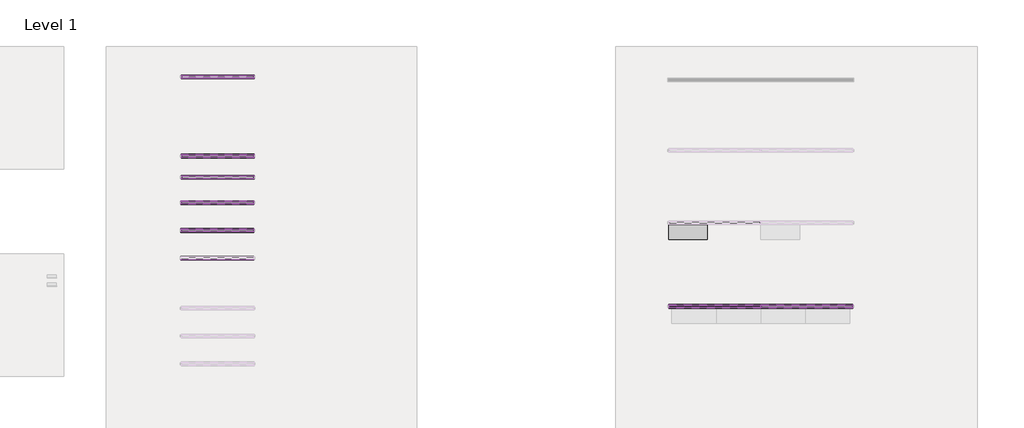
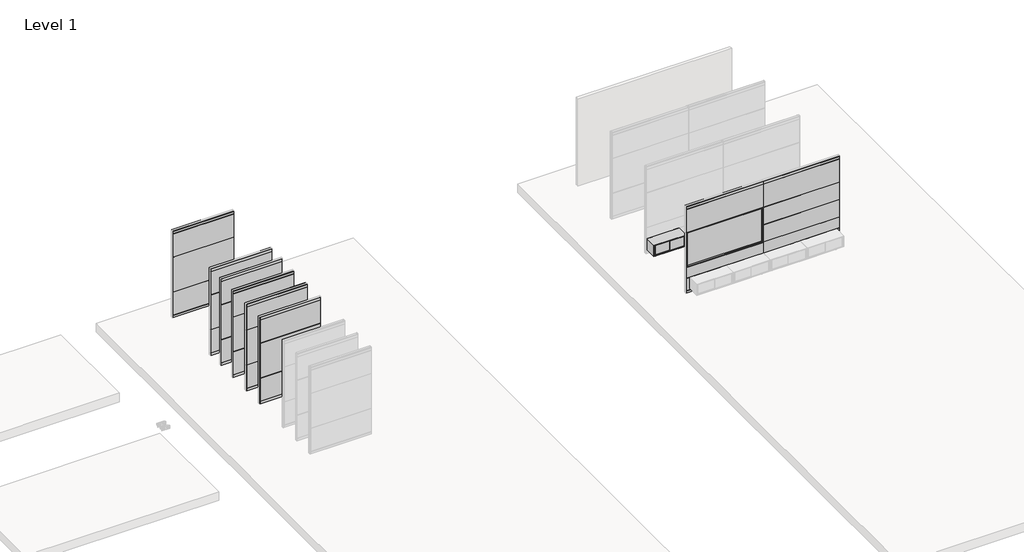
# One storey, part 12 of 13: 113 proxies, 1 furniture element.
"""IFC4 building model written with IfcOpenShell, lengths in millimetres."""

from ifc_helpers import new_model, si_unit, origin, place, context, project, spatial, transform, mapped, element, save
from components import fascia_teknion_ceiling_and_base_ffb1_18eda79c, fascia_teknion_ceiling_and_base_ffb1_afe21305, fascia_teknion_ceiling_and_base_ffb1_896a0c16, fascia_teknion_ceiling_and_base_ffb1_9837481b, frame_teknion_horizontal_rail_fkk_86cbbdfc, frame_teknion_horizontal_rail_fkk_8a89803d, glass_fascia_b5f6f7ce, level_i_45b542d7, level_i_5a75796b, level_i_b17bdb42, level_i_bottom_886b868d, level_i_top_2ca9f02e, level_ii_4f3a5f4c, level_ii_0c7391c9, level_ii_f53a0955, level_ii_bottom_6d1693ca, level_iii_1ffc0a55, level_iii_bffd5232, level_iii_4f8121dc, level_iii_edf6dfbd, furniture_d19da1b5

model = new_model("IFC4")

# Units and contexts
model_context = context("Model", 3, world=origin())
ifc_project = project(units=[si_unit("LENGTHUNIT", "METRE", prefix="MILLI")], contexts=[model_context])

# Site, building, storey
site = spatial("IfcSite", under=ifc_project)
building = spatial("IfcBuilding", under=site)
storey = spatial("IfcBuildingStorey", under=building, Name="Level 1", Elevation=0.0)

# Proxies
placement = place(None, origin())
fascia_teknion_ceiling_and_base_ffb1_shape = fascia_teknion_ceiling_and_base_ffb1_18eda79c(model_context)
element("IfcBuildingElementProxy", 1, Name="Fascia-Teknion-Ceiling_and_Base : FFB1", ObjectType="Fascia-Teknion-Ceiling_and_Base : FFB1", at=placement, inside=storey, context=model_context, shape_type="MappedRepresentation", body=[
    mapped(fascia_teknion_ceiling_and_base_ffb1_shape, transform((7469.8651083, 22312.7209257, 15.875), x_axis=(1.0, 0.0, 0.0), y_axis=(0.0, 1.0, 0.0), z_axis=(0.0, 0.0, 1.0))),
])
element("IfcBuildingElementProxy", 2, Name="Fascia-Teknion-Ceiling_and_Base : FFB1", ObjectType="Fascia-Teknion-Ceiling_and_Base : FFB1", at=placement, inside=storey, context=model_context, shape_type="MappedRepresentation", body=[
    mapped(fascia_teknion_ceiling_and_base_ffb1_shape, transform((7469.8447863, 20138.495915, 15.875), x_axis=(1.0, 0.0, 0.0), y_axis=(0.0, 1.0, 0.0), z_axis=(0.0, 0.0, 1.0))),
])
element("IfcBuildingElementProxy", 3, Name="Fascia-Teknion-Ceiling_and_Base : FFB1", ObjectType="Fascia-Teknion-Ceiling_and_Base : FFB1", at=placement, inside=storey, context=model_context, shape_type="MappedRepresentation", body=[
    mapped(fascia_teknion_ceiling_and_base_ffb1_shape, transform((7465.0427987, 18103.0839099, 15.875), x_axis=(1.0, 0.0, 0.0), y_axis=(0.0, 1.0, 0.0), z_axis=(0.0, 0.0, 1.0))),
])
element("IfcBuildingElementProxy", 4, Name="Fascia-Teknion-Ceiling_and_Base : FFB1", ObjectType="Fascia-Teknion-Ceiling_and_Base : FFB1", at=placement, inside=storey, context=model_context, shape_type="MappedRepresentation", body=[
    mapped(fascia_teknion_ceiling_and_base_ffb1_shape, transform((7465.0427987, 17341.0839099, 15.875), x_axis=(1.0, 0.0, 0.0), y_axis=(0.0, 1.0, 0.0), z_axis=(0.0, 0.0, 1.0))),
])
element("IfcBuildingElementProxy", 5, Name="Fascia-Teknion-Ceiling_and_Base : FFB1", ObjectType="Fascia-Teknion-Ceiling_and_Base : FFB1", at=placement, inside=storey, context=model_context, shape_type="MappedRepresentation", body=[
    mapped(fascia_teknion_ceiling_and_base_ffb1_shape, transform((7465.0427987, 18865.0839099, 15.875), x_axis=(1.0, 0.0, 0.0), y_axis=(0.0, 1.0, 0.0), z_axis=(0.0, 0.0, 1.0))),
])
element("IfcBuildingElementProxy", 6, Name="Fascia-Teknion-Ceiling_and_Base : FFB1", ObjectType="Fascia-Teknion-Ceiling_and_Base : FFB1", at=placement, inside=storey, context=model_context, shape_type="MappedRepresentation", body=[
    mapped(fascia_teknion_ceiling_and_base_ffb1_shape, transform((7469.8447863, 19558.2796573, 15.875), x_axis=(1.0, 0.0, 0.0), y_axis=(0.0, 1.0, 0.0), z_axis=(0.0, 0.0, 1.0))),
])
fascia_teknion_ceiling_and_base_ffb1_2_shape = fascia_teknion_ceiling_and_base_ffb1_afe21305(model_context)
element("IfcBuildingElementProxy", 7, Name="Fascia-Teknion-Ceiling_and_Base : FFB1", ObjectType="Fascia-Teknion-Ceiling_and_Base : FFB1", at=placement, inside=storey, context=model_context, shape_type="MappedRepresentation", body=[
    mapped(fascia_teknion_ceiling_and_base_ffb1_2_shape, transform((7469.8651083, 22374.6969257, 15.875), x_axis=(1.0, 0.0, 0.0), y_axis=(0.0, 1.0, 0.0), z_axis=(0.0, 0.0, 1.0))),
])
element("IfcBuildingElementProxy", 8, Name="Fascia-Teknion-Ceiling_and_Base : FFB1", ObjectType="Fascia-Teknion-Ceiling_and_Base : FFB1", at=placement, inside=storey, context=model_context, shape_type="MappedRepresentation", body=[
    mapped(fascia_teknion_ceiling_and_base_ffb1_2_shape, transform((7469.8447863, 20200.471915, 15.875), x_axis=(1.0, 0.0, 0.0), y_axis=(0.0, 1.0, 0.0), z_axis=(0.0, 0.0, 1.0))),
])
element("IfcBuildingElementProxy", 9, Name="Fascia-Teknion-Ceiling_and_Base : FFB1", ObjectType="Fascia-Teknion-Ceiling_and_Base : FFB1", at=placement, inside=storey, context=model_context, shape_type="MappedRepresentation", body=[
    mapped(fascia_teknion_ceiling_and_base_ffb1_2_shape, transform((7465.0427987, 18165.0599099, 15.875), x_axis=(1.0, 0.0, 0.0), y_axis=(0.0, 1.0, 0.0), z_axis=(0.0, 0.0, 1.0))),
])
element("IfcBuildingElementProxy", 10, Name="Fascia-Teknion-Ceiling_and_Base : FFB1", ObjectType="Fascia-Teknion-Ceiling_and_Base : FFB1", at=placement, inside=storey, context=model_context, shape_type="MappedRepresentation", body=[
    mapped(fascia_teknion_ceiling_and_base_ffb1_2_shape, transform((7465.0427987, 17403.0599099, 15.875), x_axis=(1.0, 0.0, 0.0), y_axis=(0.0, 1.0, 0.0), z_axis=(0.0, 0.0, 1.0))),
])
element("IfcBuildingElementProxy", 11, Name="Fascia-Teknion-Ceiling_and_Base : FFB1", ObjectType="Fascia-Teknion-Ceiling_and_Base : FFB1", at=placement, inside=storey, context=model_context, shape_type="MappedRepresentation", body=[
    mapped(fascia_teknion_ceiling_and_base_ffb1_2_shape, transform((7465.0427987, 18927.0599099, 15.875), x_axis=(1.0, 0.0, 0.0), y_axis=(0.0, 1.0, 0.0), z_axis=(0.0, 0.0, 1.0))),
])
element("IfcBuildingElementProxy", 12, Name="Fascia-Teknion-Ceiling_and_Base : FFB1", ObjectType="Fascia-Teknion-Ceiling_and_Base : FFB1", at=placement, inside=storey, context=model_context, shape_type="MappedRepresentation", body=[
    mapped(fascia_teknion_ceiling_and_base_ffb1_2_shape, transform((7469.8447863, 19620.2556573, 15.875), x_axis=(1.0, 0.0, 0.0), y_axis=(0.0, 1.0, 0.0), z_axis=(0.0, 0.0, 1.0))),
])
fascia_teknion_ceiling_and_base_ffb1_3_shape = fascia_teknion_ceiling_and_base_ffb1_896a0c16(model_context)
element("IfcBuildingElementProxy", 13, Name="Fascia-Teknion-Ceiling_and_Base : FFB1", ObjectType="Fascia-Teknion-Ceiling_and_Base : FFB1", at=placement, inside=storey, context=model_context, shape_type="MappedRepresentation", body=[
    mapped(fascia_teknion_ceiling_and_base_ffb1_3_shape, transform((21074.4289087, 16082.4946297, 15.875), x_axis=(1.0, 0.0, 0.0), y_axis=(0.0, 1.0, 0.0), z_axis=(0.0, 0.0, 1.0))),
])
element("IfcBuildingElementProxy", 14, Name="Fascia-Teknion-Ceiling_and_Base : FFB1", ObjectType="Fascia-Teknion-Ceiling_and_Base : FFB1", at=placement, inside=storey, context=model_context, shape_type="MappedRepresentation", body=[
    mapped(fascia_teknion_ceiling_and_base_ffb1_3_shape, transform((23600.439065, 16082.4946297, 15.875), x_axis=(1.0, 0.0, 0.0), y_axis=(0.0, 1.0, 0.0), z_axis=(0.0, 0.0, 1.0))),
])
fascia_teknion_ceiling_and_base_ffb1_4_shape = fascia_teknion_ceiling_and_base_ffb1_9837481b(model_context)
element("IfcBuildingElementProxy", 15, Name="Fascia-Teknion-Ceiling_and_Base : FFB1", ObjectType="Fascia-Teknion-Ceiling_and_Base : FFB1", at=placement, inside=storey, context=model_context, shape_type="MappedRepresentation", body=[
    mapped(fascia_teknion_ceiling_and_base_ffb1_4_shape, transform((21074.4289087, 16020.5186297, 15.875), x_axis=(1.0, 0.0, 0.0), y_axis=(0.0, 1.0, 0.0), z_axis=(0.0, 0.0, 1.0))),
])
element("IfcBuildingElementProxy", 16, Name="Fascia-Teknion-Ceiling_and_Base : FFB1", ObjectType="Fascia-Teknion-Ceiling_and_Base : FFB1", at=placement, inside=storey, context=model_context, shape_type="MappedRepresentation", body=[
    mapped(fascia_teknion_ceiling_and_base_ffb1_4_shape, transform((23600.439065, 16020.5186297, 15.875), x_axis=(1.0, 0.0, 0.0), y_axis=(0.0, 1.0, 0.0), z_axis=(0.0, 0.0, 1.0))),
])
element("IfcBuildingElementProxy", 17, Name="Fascia-Teknion-Ceiling_and_Base : FFC", ObjectType="Fascia-Teknion-Ceiling_and_Base : FFC", at=placement, inside=storey, context=model_context, shape_type="MappedRepresentation", body=[
    mapped(fascia_teknion_ceiling_and_base_ffb1_2_shape, transform((7469.8651083, 22374.6969257, 2950.845), x_axis=(1.0, 0.0, 0.0), y_axis=(0.0, 1.0, 0.0), z_axis=(0.0, 0.0, 1.0))),
])
element("IfcBuildingElementProxy", 18, Name="Fascia-Teknion-Ceiling_and_Base : FFC", ObjectType="Fascia-Teknion-Ceiling_and_Base : FFC", at=placement, inside=storey, context=model_context, shape_type="MappedRepresentation", body=[
    mapped(fascia_teknion_ceiling_and_base_ffb1_2_shape, transform((7469.8447863, 20200.471915, 2950.845), x_axis=(1.0, 0.0, 0.0), y_axis=(0.0, 1.0, 0.0), z_axis=(0.0, 0.0, 1.0))),
])
element("IfcBuildingElementProxy", 19, Name="Fascia-Teknion-Ceiling_and_Base : FFC", ObjectType="Fascia-Teknion-Ceiling_and_Base : FFC", at=placement, inside=storey, context=model_context, shape_type="MappedRepresentation", body=[
    mapped(fascia_teknion_ceiling_and_base_ffb1_2_shape, transform((7465.0427987, 18165.0599099, 2950.845), x_axis=(1.0, 0.0, 0.0), y_axis=(0.0, 1.0, 0.0), z_axis=(0.0, 0.0, 1.0))),
])
element("IfcBuildingElementProxy", 20, Name="Fascia-Teknion-Ceiling_and_Base : FFC", ObjectType="Fascia-Teknion-Ceiling_and_Base : FFC", at=placement, inside=storey, context=model_context, shape_type="MappedRepresentation", body=[
    mapped(fascia_teknion_ceiling_and_base_ffb1_2_shape, transform((7465.0427987, 18927.0599099, 2950.845), x_axis=(1.0, 0.0, 0.0), y_axis=(0.0, 1.0, 0.0), z_axis=(0.0, 0.0, 1.0))),
])
element("IfcBuildingElementProxy", 21, Name="Fascia-Teknion-Ceiling_and_Base : FFC", ObjectType="Fascia-Teknion-Ceiling_and_Base : FFC", at=placement, inside=storey, context=model_context, shape_type="MappedRepresentation", body=[
    mapped(fascia_teknion_ceiling_and_base_ffb1_2_shape, transform((7469.8447863, 19620.2556573, 2950.845), x_axis=(1.0, 0.0, 0.0), y_axis=(0.0, 1.0, 0.0), z_axis=(0.0, 0.0, 1.0))),
])
element("IfcBuildingElementProxy", 22, Name="Fascia-Teknion-Ceiling_and_Base : FFC", ObjectType="Fascia-Teknion-Ceiling_and_Base : FFC", at=placement, inside=storey, context=model_context, shape_type="MappedRepresentation", body=[
    mapped(fascia_teknion_ceiling_and_base_ffb1_shape, transform((7469.8651083, 22312.7209257, 2950.845), x_axis=(1.0, 0.0, 0.0), y_axis=(0.0, 1.0, 0.0), z_axis=(0.0, 0.0, 1.0))),
])
element("IfcBuildingElementProxy", 23, Name="Fascia-Teknion-Ceiling_and_Base : FFC", ObjectType="Fascia-Teknion-Ceiling_and_Base : FFC", at=placement, inside=storey, context=model_context, shape_type="MappedRepresentation", body=[
    mapped(fascia_teknion_ceiling_and_base_ffb1_shape, transform((7469.8447863, 20138.495915, 2950.845), x_axis=(1.0, 0.0, 0.0), y_axis=(0.0, 1.0, 0.0), z_axis=(0.0, 0.0, 1.0))),
])
element("IfcBuildingElementProxy", 24, Name="Fascia-Teknion-Ceiling_and_Base : FFC", ObjectType="Fascia-Teknion-Ceiling_and_Base : FFC", at=placement, inside=storey, context=model_context, shape_type="MappedRepresentation", body=[
    mapped(fascia_teknion_ceiling_and_base_ffb1_shape, transform((7465.0427987, 18103.0839099, 2950.845), x_axis=(1.0, 0.0, 0.0), y_axis=(0.0, 1.0, 0.0), z_axis=(0.0, 0.0, 1.0))),
])
element("IfcBuildingElementProxy", 25, Name="Fascia-Teknion-Ceiling_and_Base : FFC", ObjectType="Fascia-Teknion-Ceiling_and_Base : FFC", at=placement, inside=storey, context=model_context, shape_type="MappedRepresentation", body=[
    mapped(fascia_teknion_ceiling_and_base_ffb1_shape, transform((7465.0427987, 17341.0839099, 2950.845), x_axis=(1.0, 0.0, 0.0), y_axis=(0.0, 1.0, 0.0), z_axis=(0.0, 0.0, 1.0))),
])
element("IfcBuildingElementProxy", 26, Name="Fascia-Teknion-Ceiling_and_Base : FFC", ObjectType="Fascia-Teknion-Ceiling_and_Base : FFC", at=placement, inside=storey, context=model_context, shape_type="MappedRepresentation", body=[
    mapped(fascia_teknion_ceiling_and_base_ffb1_shape, transform((7465.0427987, 18865.0839099, 2950.845), x_axis=(1.0, 0.0, 0.0), y_axis=(0.0, 1.0, 0.0), z_axis=(0.0, 0.0, 1.0))),
])
element("IfcBuildingElementProxy", 27, Name="Fascia-Teknion-Ceiling_and_Base : FFC", ObjectType="Fascia-Teknion-Ceiling_and_Base : FFC", at=placement, inside=storey, context=model_context, shape_type="MappedRepresentation", body=[
    mapped(fascia_teknion_ceiling_and_base_ffb1_shape, transform((7469.8447863, 19558.2796573, 2950.845), x_axis=(1.0, 0.0, 0.0), y_axis=(0.0, 1.0, 0.0), z_axis=(0.0, 0.0, 1.0))),
])
element("IfcBuildingElementProxy", 28, Name="Fascia-Teknion-Ceiling_and_Base : FFC", ObjectType="Fascia-Teknion-Ceiling_and_Base : FFC", at=placement, inside=storey, context=model_context, shape_type="MappedRepresentation", body=[
    mapped(fascia_teknion_ceiling_and_base_ffb1_3_shape, transform((21074.4289087, 16082.4946297, 2950.845), x_axis=(1.0, 0.0, 0.0), y_axis=(0.0, 1.0, 0.0), z_axis=(0.0, 0.0, 1.0))),
])
element("IfcBuildingElementProxy", 29, Name="Fascia-Teknion-Ceiling_and_Base : FFC", ObjectType="Fascia-Teknion-Ceiling_and_Base : FFC", at=placement, inside=storey, context=model_context, shape_type="MappedRepresentation", body=[
    mapped(fascia_teknion_ceiling_and_base_ffb1_3_shape, transform((23600.439065, 16082.4946297, 2950.845), x_axis=(1.0, 0.0, 0.0), y_axis=(0.0, 1.0, 0.0), z_axis=(0.0, 0.0, 1.0))),
])
element("IfcBuildingElementProxy", 30, Name="Fascia-Teknion-Ceiling_and_Base : FFC", ObjectType="Fascia-Teknion-Ceiling_and_Base : FFC", at=placement, inside=storey, context=model_context, shape_type="MappedRepresentation", body=[
    mapped(fascia_teknion_ceiling_and_base_ffb1_4_shape, transform((21074.4289087, 16020.5186297, 2950.845), x_axis=(1.0, 0.0, 0.0), y_axis=(0.0, 1.0, 0.0), z_axis=(0.0, 0.0, 1.0))),
])
element("IfcBuildingElementProxy", 31, Name="Fascia-Teknion-Ceiling_and_Base : FFC", ObjectType="Fascia-Teknion-Ceiling_and_Base : FFC", at=placement, inside=storey, context=model_context, shape_type="MappedRepresentation", body=[
    mapped(fascia_teknion_ceiling_and_base_ffb1_4_shape, transform((23600.439065, 16020.5186297, 2950.845), x_axis=(1.0, 0.0, 0.0), y_axis=(0.0, 1.0, 0.0), z_axis=(0.0, 0.0, 1.0))),
])
frame_teknion_horizontal_rail_fkk_shape = frame_teknion_horizontal_rail_fkk_86cbbdfc(model_context)
element("IfcBuildingElementProxy", 32, Name="Frame-Teknion-Horizontal_Rail : FKK", ObjectType="Frame-Teknion-Horizontal_Rail : FKK", at=placement, inside=storey, context=model_context, shape_type="MappedRepresentation", body=[
    mapped(frame_teknion_horizontal_rail_fkk_shape, transform((7469.8651083, 22343.7089257, 100.4514438), x_axis=(1.0, 0.0, 0.0), y_axis=(0.0, 1.0, 0.0), z_axis=(0.0, 0.0, 1.0))),
])
element("IfcBuildingElementProxy", 33, Name="Frame-Teknion-Horizontal_Rail : FKK", ObjectType="Frame-Teknion-Horizontal_Rail : FKK", at=placement, inside=storey, context=model_context, shape_type="MappedRepresentation", body=[
    mapped(frame_teknion_horizontal_rail_fkk_shape, transform((7469.8651083, 22343.7089257, 2947.5374437), x_axis=(1.0, 0.0, 0.0), y_axis=(0.0, 1.0, 0.0), z_axis=(0.0, 0.0, 1.0))),
])
element("IfcBuildingElementProxy", 34, Name="Frame-Teknion-Horizontal_Rail : FKK", ObjectType="Frame-Teknion-Horizontal_Rail : FKK", at=placement, inside=storey, context=model_context, shape_type="MappedRepresentation", body=[
    mapped(frame_teknion_horizontal_rail_fkk_shape, transform((7469.8447863, 20169.483915, 100.4514438), x_axis=(1.0, 0.0, 0.0), y_axis=(0.0, 1.0, 0.0), z_axis=(0.0, 0.0, 1.0))),
])
element("IfcBuildingElementProxy", 35, Name="Frame-Teknion-Horizontal_Rail : FKK", ObjectType="Frame-Teknion-Horizontal_Rail : FKK", at=placement, inside=storey, context=model_context, shape_type="MappedRepresentation", body=[
    mapped(frame_teknion_horizontal_rail_fkk_shape, transform((7469.8447863, 20169.483915, 2947.5374437), x_axis=(1.0, 0.0, 0.0), y_axis=(0.0, 1.0, 0.0), z_axis=(0.0, 0.0, 1.0))),
])
element("IfcBuildingElementProxy", 36, Name="Frame-Teknion-Horizontal_Rail : FKK", ObjectType="Frame-Teknion-Horizontal_Rail : FKK", at=placement, inside=storey, context=model_context, shape_type="MappedRepresentation", body=[
    mapped(frame_teknion_horizontal_rail_fkk_shape, transform((7465.0427987, 18134.0719099, 100.4514438), x_axis=(1.0, 0.0, 0.0), y_axis=(0.0, 1.0, 0.0), z_axis=(0.0, 0.0, 1.0))),
])
element("IfcBuildingElementProxy", 37, Name="Frame-Teknion-Horizontal_Rail : FKK", ObjectType="Frame-Teknion-Horizontal_Rail : FKK", at=placement, inside=storey, context=model_context, shape_type="MappedRepresentation", body=[
    mapped(frame_teknion_horizontal_rail_fkk_shape, transform((7465.0427987, 18134.0719099, 2947.5374437), x_axis=(1.0, 0.0, 0.0), y_axis=(0.0, 1.0, 0.0), z_axis=(0.0, 0.0, 1.0))),
])
element("IfcBuildingElementProxy", 38, Name="Frame-Teknion-Horizontal_Rail : FKK", ObjectType="Frame-Teknion-Horizontal_Rail : FKK", at=placement, inside=storey, context=model_context, shape_type="MappedRepresentation", body=[
    mapped(frame_teknion_horizontal_rail_fkk_shape, transform((7465.0427987, 18896.0719099, 100.4514438), x_axis=(1.0, 0.0, 0.0), y_axis=(0.0, 1.0, 0.0), z_axis=(0.0, 0.0, 1.0))),
])
element("IfcBuildingElementProxy", 39, Name="Frame-Teknion-Horizontal_Rail : FKK", ObjectType="Frame-Teknion-Horizontal_Rail : FKK", at=placement, inside=storey, context=model_context, shape_type="MappedRepresentation", body=[
    mapped(frame_teknion_horizontal_rail_fkk_shape, transform((7465.0427987, 18896.0719099, 2947.5374437), x_axis=(1.0, 0.0, 0.0), y_axis=(0.0, 1.0, 0.0), z_axis=(0.0, 0.0, 1.0))),
])
element("IfcBuildingElementProxy", 40, Name="Frame-Teknion-Horizontal_Rail : FKK", ObjectType="Frame-Teknion-Horizontal_Rail : FKK", at=placement, inside=storey, context=model_context, shape_type="MappedRepresentation", body=[
    mapped(frame_teknion_horizontal_rail_fkk_shape, transform((7469.8447863, 19589.2676573, 100.4514438), x_axis=(1.0, 0.0, 0.0), y_axis=(0.0, 1.0, 0.0), z_axis=(0.0, 0.0, 1.0))),
])
element("IfcBuildingElementProxy", 41, Name="Frame-Teknion-Horizontal_Rail : FKK", ObjectType="Frame-Teknion-Horizontal_Rail : FKK", at=placement, inside=storey, context=model_context, shape_type="MappedRepresentation", body=[
    mapped(frame_teknion_horizontal_rail_fkk_shape, transform((7469.8447863, 19589.2676573, 2947.5374437), x_axis=(1.0, 0.0, 0.0), y_axis=(0.0, 1.0, 0.0), z_axis=(0.0, 0.0, 1.0))),
])
frame_teknion_horizontal_rail_fkk_2_shape = frame_teknion_horizontal_rail_fkk_8a89803d(model_context)
element("IfcBuildingElementProxy", 42, Name="Frame-Teknion-Horizontal_Rail : FKK", ObjectType="Frame-Teknion-Horizontal_Rail : FKK", at=placement, inside=storey, context=model_context, shape_type="MappedRepresentation", body=[
    mapped(frame_teknion_horizontal_rail_fkk_2_shape, transform((21074.4289087, 16051.5066297, 100.4514438), x_axis=(1.0, 0.0, 0.0), y_axis=(0.0, 1.0, 0.0), z_axis=(0.0, 0.0, 1.0))),
])
element("IfcBuildingElementProxy", 43, Name="Frame-Teknion-Horizontal_Rail : FKK", ObjectType="Frame-Teknion-Horizontal_Rail : FKK", at=placement, inside=storey, context=model_context, shape_type="MappedRepresentation", body=[
    mapped(frame_teknion_horizontal_rail_fkk_2_shape, transform((21074.4289087, 16051.5066297, 2947.5374437), x_axis=(1.0, 0.0, 0.0), y_axis=(0.0, 1.0, 0.0), z_axis=(0.0, 0.0, 1.0))),
])
element("IfcBuildingElementProxy", 44, Name="Frame-Teknion-Horizontal_Rail : FKK", ObjectType="Frame-Teknion-Horizontal_Rail : FKK", at=placement, inside=storey, context=model_context, shape_type="MappedRepresentation", body=[
    mapped(frame_teknion_horizontal_rail_fkk_2_shape, transform((23600.439065, 16051.5066297, 100.4514438), x_axis=(1.0, 0.0, 0.0), y_axis=(0.0, 1.0, 0.0), z_axis=(0.0, 0.0, 1.0))),
])
element("IfcBuildingElementProxy", 45, Name="Frame-Teknion-Horizontal_Rail : FKK", ObjectType="Frame-Teknion-Horizontal_Rail : FKK", at=placement, inside=storey, context=model_context, shape_type="MappedRepresentation", body=[
    mapped(frame_teknion_horizontal_rail_fkk_2_shape, transform((23600.439065, 16051.5066297, 2947.5374437), x_axis=(1.0, 0.0, 0.0), y_axis=(0.0, 1.0, 0.0), z_axis=(0.0, 0.0, 1.0))),
])
element("IfcBuildingElementProxy", 46, Name="Frame-Teknion-Landscape_Horizontal_Rail : FLKH", ObjectType="Frame-Teknion-Landscape_Horizontal_Rail : FLKH", at=placement, inside=storey, context=model_context, shape_type="MappedRepresentation", body=[
    mapped(frame_teknion_horizontal_rail_fkk_shape, transform((7469.8651083, 22343.7089257, 917.575), x_axis=(1.0, 0.0, 0.0), y_axis=(0.0, 1.0, 0.0), z_axis=(0.0, 0.0, 1.0))),
])
element("IfcBuildingElementProxy", 47, Name="Frame-Teknion-Landscape_Horizontal_Rail : FLKH", ObjectType="Frame-Teknion-Landscape_Horizontal_Rail : FLKH", at=placement, inside=storey, context=model_context, shape_type="MappedRepresentation", body=[
    mapped(frame_teknion_horizontal_rail_fkk_shape, transform((7469.8651083, 22343.7089257, 2136.775), x_axis=(1.0, 0.0, 0.0), y_axis=(0.0, 1.0, 0.0), z_axis=(0.0, 0.0, 1.0))),
])
element("IfcBuildingElementProxy", 48, Name="Frame-Teknion-Landscape_Horizontal_Rail : FLKH", ObjectType="Frame-Teknion-Landscape_Horizontal_Rail : FLKH", at=placement, inside=storey, context=model_context, shape_type="MappedRepresentation", body=[
    mapped(frame_teknion_horizontal_rail_fkk_shape, transform((7469.8447863, 20169.483915, 917.575), x_axis=(1.0, 0.0, 0.0), y_axis=(0.0, 1.0, 0.0), z_axis=(0.0, 0.0, 1.0))),
])
element("IfcBuildingElementProxy", 49, Name="Frame-Teknion-Landscape_Horizontal_Rail : FLKH", ObjectType="Frame-Teknion-Landscape_Horizontal_Rail : FLKH", at=placement, inside=storey, context=model_context, shape_type="MappedRepresentation", body=[
    mapped(frame_teknion_horizontal_rail_fkk_shape, transform((7469.8447863, 20169.483915, 2136.775), x_axis=(1.0, 0.0, 0.0), y_axis=(0.0, 1.0, 0.0), z_axis=(0.0, 0.0, 1.0))),
])
element("IfcBuildingElementProxy", 50, Name="Frame-Teknion-Landscape_Horizontal_Rail : FLKH", ObjectType="Frame-Teknion-Landscape_Horizontal_Rail : FLKH", at=placement, inside=storey, context=model_context, shape_type="MappedRepresentation", body=[
    mapped(frame_teknion_horizontal_rail_fkk_shape, transform((7465.0427987, 18134.0719099, 917.575), x_axis=(1.0, 0.0, 0.0), y_axis=(0.0, 1.0, 0.0), z_axis=(0.0, 0.0, 1.0))),
])
element("IfcBuildingElementProxy", 51, Name="Frame-Teknion-Landscape_Horizontal_Rail : FLKH", ObjectType="Frame-Teknion-Landscape_Horizontal_Rail : FLKH", at=placement, inside=storey, context=model_context, shape_type="MappedRepresentation", body=[
    mapped(frame_teknion_horizontal_rail_fkk_shape, transform((7465.0427987, 18134.0719099, 2136.775), x_axis=(1.0, 0.0, 0.0), y_axis=(0.0, 1.0, 0.0), z_axis=(0.0, 0.0, 1.0))),
])
element("IfcBuildingElementProxy", 52, Name="Frame-Teknion-Landscape_Horizontal_Rail : FLKH", ObjectType="Frame-Teknion-Landscape_Horizontal_Rail : FLKH", at=placement, inside=storey, context=model_context, shape_type="MappedRepresentation", body=[
    mapped(frame_teknion_horizontal_rail_fkk_shape, transform((7465.0427987, 18896.0719099, 917.575), x_axis=(1.0, 0.0, 0.0), y_axis=(0.0, 1.0, 0.0), z_axis=(0.0, 0.0, 1.0))),
])
element("IfcBuildingElementProxy", 53, Name="Frame-Teknion-Landscape_Horizontal_Rail : FLKH", ObjectType="Frame-Teknion-Landscape_Horizontal_Rail : FLKH", at=placement, inside=storey, context=model_context, shape_type="MappedRepresentation", body=[
    mapped(frame_teknion_horizontal_rail_fkk_shape, transform((7465.0427987, 18896.0719099, 2136.775), x_axis=(1.0, 0.0, 0.0), y_axis=(0.0, 1.0, 0.0), z_axis=(0.0, 0.0, 1.0))),
])
element("IfcBuildingElementProxy", 54, Name="Frame-Teknion-Landscape_Horizontal_Rail : FLKH", ObjectType="Frame-Teknion-Landscape_Horizontal_Rail : FLKH", at=placement, inside=storey, context=model_context, shape_type="MappedRepresentation", body=[
    mapped(frame_teknion_horizontal_rail_fkk_shape, transform((7469.8447863, 19589.2676573, 917.575), x_axis=(1.0, 0.0, 0.0), y_axis=(0.0, 1.0, 0.0), z_axis=(0.0, 0.0, 1.0))),
])
element("IfcBuildingElementProxy", 55, Name="Frame-Teknion-Landscape_Horizontal_Rail : FLKH", ObjectType="Frame-Teknion-Landscape_Horizontal_Rail : FLKH", at=placement, inside=storey, context=model_context, shape_type="MappedRepresentation", body=[
    mapped(frame_teknion_horizontal_rail_fkk_shape, transform((7469.8447863, 19589.2676573, 2136.775), x_axis=(1.0, 0.0, 0.0), y_axis=(0.0, 1.0, 0.0), z_axis=(0.0, 0.0, 1.0))),
])
element("IfcBuildingElementProxy", 56, Name="Frame-Teknion-Landscape_Horizontal_Rail : FLKH", ObjectType="Frame-Teknion-Landscape_Horizontal_Rail : FLKH", at=placement, inside=storey, context=model_context, shape_type="MappedRepresentation", body=[
    mapped(frame_teknion_horizontal_rail_fkk_2_shape, transform((21074.4289087, 18345.3189536, 917.575), x_axis=(1.0, 0.0, 0.0), y_axis=(0.0, 1.0, 0.0), z_axis=(0.0, 0.0, 1.0))),
])
element("IfcBuildingElementProxy", 57, Name="Frame-Teknion-Landscape_Horizontal_Rail : FLKH", ObjectType="Frame-Teknion-Landscape_Horizontal_Rail : FLKH", at=placement, inside=storey, context=model_context, shape_type="MappedRepresentation", body=[
    mapped(frame_teknion_horizontal_rail_fkk_2_shape, transform((21074.4289087, 18345.3189536, 2136.775), x_axis=(1.0, 0.0, 0.0), y_axis=(0.0, 1.0, 0.0), z_axis=(0.0, 0.0, 1.0))),
])
element("IfcBuildingElementProxy", 58, Name="Frame-Teknion-Landscape_Horizontal_Rail : FLKH", ObjectType="Frame-Teknion-Landscape_Horizontal_Rail : FLKH", at=placement, inside=storey, context=model_context, shape_type="MappedRepresentation", body=[
    mapped(frame_teknion_horizontal_rail_fkk_2_shape, transform((21074.4289087, 16051.5066297, 917.575), x_axis=(1.0, 0.0, 0.0), y_axis=(0.0, 1.0, 0.0), z_axis=(0.0, 0.0, 1.0))),
])
element("IfcBuildingElementProxy", 59, Name="Frame-Teknion-Landscape_Horizontal_Rail : FLKH", ObjectType="Frame-Teknion-Landscape_Horizontal_Rail : FLKH", at=placement, inside=storey, context=model_context, shape_type="MappedRepresentation", body=[
    mapped(frame_teknion_horizontal_rail_fkk_2_shape, transform((21074.4289087, 16051.5066297, 2136.775), x_axis=(1.0, 0.0, 0.0), y_axis=(0.0, 1.0, 0.0), z_axis=(0.0, 0.0, 1.0))),
])
element("IfcBuildingElementProxy", 60, Name="Frame-Teknion-Landscape_Horizontal_Rail : FLKH", ObjectType="Frame-Teknion-Landscape_Horizontal_Rail : FLKH", at=placement, inside=storey, context=model_context, shape_type="MappedRepresentation", body=[
    mapped(frame_teknion_horizontal_rail_fkk_2_shape, transform((23600.439065, 16051.5066297, 917.575), x_axis=(1.0, 0.0, 0.0), y_axis=(0.0, 1.0, 0.0), z_axis=(0.0, 0.0, 1.0))),
])
element("IfcBuildingElementProxy", 61, Name="Frame-Teknion-Landscape_Horizontal_Rail : FLKH", ObjectType="Frame-Teknion-Landscape_Horizontal_Rail : FLKH", at=placement, inside=storey, context=model_context, shape_type="MappedRepresentation", body=[
    mapped(frame_teknion_horizontal_rail_fkk_2_shape, transform((23600.439065, 16051.5066297, 2136.775), x_axis=(1.0, 0.0, 0.0), y_axis=(0.0, 1.0, 0.0), z_axis=(0.0, 0.0, 1.0))),
])
element("IfcBuildingElementProxy", 62, Name="Frame-Teknion-Landscape_Horizontal_Rail : FLKH", ObjectType="Frame-Teknion-Landscape_Horizontal_Rail : FLKH", at=placement, inside=storey, context=model_context, shape_type="MappedRepresentation", body=[
    mapped(frame_teknion_horizontal_rail_fkk_2_shape, transform((21074.4289087, 16051.5066297, 536.575), x_axis=(1.0, 0.0, 0.0), y_axis=(0.0, 1.0, 0.0), z_axis=(0.0, 0.0, 1.0))),
])
element("IfcBuildingElementProxy", 63, Name="Frame-Teknion-Landscape_Horizontal_Rail : FLKH", ObjectType="Frame-Teknion-Landscape_Horizontal_Rail : FLKH", at=placement, inside=storey, context=model_context, shape_type="MappedRepresentation", body=[
    mapped(frame_teknion_horizontal_rail_fkk_2_shape, transform((23600.439065, 16051.5066297, 536.575), x_axis=(1.0, 0.0, 0.0), y_axis=(0.0, 1.0, 0.0), z_axis=(0.0, 0.0, 1.0))),
])
element("IfcBuildingElementProxy", 64, Name="Frame-Teknion-Landscape_Horizontal_Rail : FLKH", ObjectType="Frame-Teknion-Landscape_Horizontal_Rail : FLKH", at=placement, inside=storey, context=model_context, shape_type="MappedRepresentation", body=[
    mapped(frame_teknion_horizontal_rail_fkk_2_shape, transform((23600.439065, 16051.5066297, 1527.175), x_axis=(1.0, 0.0, 0.0), y_axis=(0.0, 1.0, 0.0), z_axis=(0.0, 0.0, 1.0))),
])
glass_fascia_shape = glass_fascia_b5f6f7ce(model_context)
element("IfcBuildingElementProxy", 65, Name="Panel-Fascia-Teknion-Altos-Glass : Glass Fascia", ObjectType="Panel-Fascia-Teknion-Altos-Glass : Glass Fascia", at=placement, inside=storey, context=model_context, shape_type="MappedRepresentation", body=[
    mapped(glass_fascia_shape, transform((21074.4289087, 16051.524489, 917.575), x_axis=(1.0, 0.0, 0.0), y_axis=(0.0, 1.0, 0.0), z_axis=(0.0, 0.0, 1.0))),
])
level_i_shape = level_i_45b542d7(model_context)
element("IfcBuildingElementProxy", 66, Name="Panel-Fascia-Teknion-Altos-Landscape : Level I", ObjectType="Panel-Fascia-Teknion-Altos-Landscape : Level I", at=placement, inside=storey, context=model_context, shape_type="MappedRepresentation", body=[
    mapped(level_i_shape, transform((7469.8651083, 22384.2219257, 100.457), x_axis=(1.0, 0.0, 0.0), y_axis=(0.0, 1.0, 0.0), z_axis=(0.0, 0.0, 1.0))),
])
element("IfcBuildingElementProxy", 67, Name="Panel-Fascia-Teknion-Altos-Landscape : Level I", ObjectType="Panel-Fascia-Teknion-Altos-Landscape : Level I", at=placement, inside=storey, context=model_context, shape_type="MappedRepresentation", body=[
    mapped(level_i_shape, transform((7469.8447863, 20209.996915, 100.457), x_axis=(1.0, 0.0, 0.0), y_axis=(0.0, 1.0, 0.0), z_axis=(0.0, 0.0, 1.0))),
])
element("IfcBuildingElementProxy", 68, Name="Panel-Fascia-Teknion-Altos-Landscape : Level I", ObjectType="Panel-Fascia-Teknion-Altos-Landscape : Level I", at=placement, inside=storey, context=model_context, shape_type="MappedRepresentation", body=[
    mapped(level_i_shape, transform((7465.0427987, 18174.5849099, 100.457), x_axis=(1.0, 0.0, 0.0), y_axis=(0.0, 1.0, 0.0), z_axis=(0.0, 0.0, 1.0))),
])
element("IfcBuildingElementProxy", 69, Name="Panel-Fascia-Teknion-Altos-Landscape : Level I", ObjectType="Panel-Fascia-Teknion-Altos-Landscape : Level I", at=placement, inside=storey, context=model_context, shape_type="MappedRepresentation", body=[
    mapped(level_i_shape, transform((7465.0427987, 17412.5849099, 100.457), x_axis=(1.0, 0.0, 0.0), y_axis=(0.0, 1.0, 0.0), z_axis=(0.0, 0.0, 1.0))),
])
element("IfcBuildingElementProxy", 70, Name="Panel-Fascia-Teknion-Altos-Landscape : Level I", ObjectType="Panel-Fascia-Teknion-Altos-Landscape : Level I", at=placement, inside=storey, context=model_context, shape_type="MappedRepresentation", body=[
    mapped(level_i_shape, transform((7465.0427987, 18936.5849099, 100.457), x_axis=(1.0, 0.0, 0.0), y_axis=(0.0, 1.0, 0.0), z_axis=(0.0, 0.0, 1.0))),
])
element("IfcBuildingElementProxy", 71, Name="Panel-Fascia-Teknion-Altos-Landscape : Level I", ObjectType="Panel-Fascia-Teknion-Altos-Landscape : Level I", at=placement, inside=storey, context=model_context, shape_type="MappedRepresentation", body=[
    mapped(level_i_shape, transform((7469.8447863, 19629.7806573, 100.457), x_axis=(1.0, 0.0, 0.0), y_axis=(0.0, 1.0, 0.0), z_axis=(0.0, 0.0, 1.0))),
])
level_i_2_shape = level_i_5a75796b(model_context)
element("IfcBuildingElementProxy", 72, Name="Panel-Fascia-Teknion-Altos-Landscape : Level I", ObjectType="Panel-Fascia-Teknion-Altos-Landscape : Level I", at=placement, inside=storey, context=model_context, shape_type="MappedRepresentation", body=[
    mapped(level_i_2_shape, transform((7469.8651083, 22303.1959257, 100.457), x_axis=(1.0, 0.0, 0.0), y_axis=(0.0, 1.0, 0.0), z_axis=(0.0, 0.0, 1.0))),
])
element("IfcBuildingElementProxy", 73, Name="Panel-Fascia-Teknion-Altos-Landscape : Level I", ObjectType="Panel-Fascia-Teknion-Altos-Landscape : Level I", at=placement, inside=storey, context=model_context, shape_type="MappedRepresentation", body=[
    mapped(level_i_2_shape, transform((7469.8447863, 20128.970915, 100.457), x_axis=(1.0, 0.0, 0.0), y_axis=(0.0, 1.0, 0.0), z_axis=(0.0, 0.0, 1.0))),
])
element("IfcBuildingElementProxy", 74, Name="Panel-Fascia-Teknion-Altos-Landscape : Level I", ObjectType="Panel-Fascia-Teknion-Altos-Landscape : Level I", at=placement, inside=storey, context=model_context, shape_type="MappedRepresentation", body=[
    mapped(level_i_2_shape, transform((7465.0427987, 18093.5589099, 100.457), x_axis=(1.0, 0.0, 0.0), y_axis=(0.0, 1.0, 0.0), z_axis=(0.0, 0.0, 1.0))),
])
element("IfcBuildingElementProxy", 75, Name="Panel-Fascia-Teknion-Altos-Landscape : Level I", ObjectType="Panel-Fascia-Teknion-Altos-Landscape : Level I", at=placement, inside=storey, context=model_context, shape_type="MappedRepresentation", body=[
    mapped(level_i_2_shape, transform((7465.0427987, 17331.5589099, 100.457), x_axis=(1.0, 0.0, 0.0), y_axis=(0.0, 1.0, 0.0), z_axis=(0.0, 0.0, 1.0))),
])
element("IfcBuildingElementProxy", 76, Name="Panel-Fascia-Teknion-Altos-Landscape : Level I", ObjectType="Panel-Fascia-Teknion-Altos-Landscape : Level I", at=placement, inside=storey, context=model_context, shape_type="MappedRepresentation", body=[
    mapped(level_i_2_shape, transform((7465.0427987, 18855.5589099, 100.457), x_axis=(1.0, 0.0, 0.0), y_axis=(0.0, 1.0, 0.0), z_axis=(0.0, 0.0, 1.0))),
])
element("IfcBuildingElementProxy", 77, Name="Panel-Fascia-Teknion-Altos-Landscape : Level I", ObjectType="Panel-Fascia-Teknion-Altos-Landscape : Level I", at=placement, inside=storey, context=model_context, shape_type="MappedRepresentation", body=[
    mapped(level_i_2_shape, transform((7469.8447863, 19548.7546573, 100.457), x_axis=(1.0, 0.0, 0.0), y_axis=(0.0, 1.0, 0.0), z_axis=(0.0, 0.0, 1.0))),
])
level_i_3_shape = level_i_b17bdb42(model_context)
element("IfcBuildingElementProxy", 78, Name="Panel-Fascia-Teknion-Altos-Landscape : Level I", ObjectType="Panel-Fascia-Teknion-Altos-Landscape : Level I", at=placement, inside=storey, context=model_context, shape_type="MappedRepresentation", body=[
    mapped(level_i_3_shape, transform((21074.4289087, 16092.0196297, 100.457), x_axis=(1.0, 0.0, 0.0), y_axis=(0.0, 1.0, 0.0), z_axis=(0.0, 0.0, 1.0))),
])
element("IfcBuildingElementProxy", 79, Name="Panel-Fascia-Teknion-Altos-Landscape : Level I", ObjectType="Panel-Fascia-Teknion-Altos-Landscape : Level I", at=placement, inside=storey, context=model_context, shape_type="MappedRepresentation", body=[
    mapped(level_i_3_shape, transform((23600.439065, 16092.0196297, 100.457), x_axis=(1.0, 0.0, 0.0), y_axis=(0.0, 1.0, 0.0), z_axis=(0.0, 0.0, 1.0))),
])
level_i_bottom_shape = level_i_bottom_886b868d(model_context)
element("IfcBuildingElementProxy", 80, Name="Panel-Fascia-Teknion-Altos-Landscape : Level I Bottom", ObjectType="Panel-Fascia-Teknion-Altos-Landscape : Level I Bottom", at=placement, inside=storey, context=model_context, shape_type="MappedRepresentation", body=[
    mapped(level_i_bottom_shape, transform((21074.4289087, 16010.9936297, 100.457), x_axis=(1.0, 0.0, 0.0), y_axis=(0.0, 1.0, 0.0), z_axis=(0.0, 0.0, 1.0))),
])
element("IfcBuildingElementProxy", 81, Name="Panel-Fascia-Teknion-Altos-Landscape : Level I Bottom", ObjectType="Panel-Fascia-Teknion-Altos-Landscape : Level I Bottom", at=placement, inside=storey, context=model_context, shape_type="MappedRepresentation", body=[
    mapped(level_i_bottom_shape, transform((23600.439065, 16010.9936297, 100.457), x_axis=(1.0, 0.0, 0.0), y_axis=(0.0, 1.0, 0.0), z_axis=(0.0, 0.0, 1.0))),
])
level_i_top_shape = level_i_top_2ca9f02e(model_context)
element("IfcBuildingElementProxy", 82, Name="Panel-Fascia-Teknion-Altos-Landscape : Level I Top", ObjectType="Panel-Fascia-Teknion-Altos-Landscape : Level I Top", at=placement, inside=storey, context=model_context, shape_type="MappedRepresentation", body=[
    mapped(level_i_top_shape, transform((21074.4289087, 16010.9936297, 536.575), x_axis=(1.0, 0.0, 0.0), y_axis=(0.0, 1.0, 0.0), z_axis=(0.0, 0.0, 1.0))),
])
element("IfcBuildingElementProxy", 83, Name="Panel-Fascia-Teknion-Altos-Landscape : Level I Top", ObjectType="Panel-Fascia-Teknion-Altos-Landscape : Level I Top", at=placement, inside=storey, context=model_context, shape_type="MappedRepresentation", body=[
    mapped(level_i_top_shape, transform((23600.439065, 16010.9936297, 536.575), x_axis=(1.0, 0.0, 0.0), y_axis=(0.0, 1.0, 0.0), z_axis=(0.0, 0.0, 1.0))),
])
level_ii_shape = level_ii_4f3a5f4c(model_context)
element("IfcBuildingElementProxy", 84, Name="Panel-Fascia-Teknion-Altos-Landscape : Level II", ObjectType="Panel-Fascia-Teknion-Altos-Landscape : Level II", at=placement, inside=storey, context=model_context, shape_type="MappedRepresentation", body=[
    mapped(level_ii_shape, transform((7469.8651083, 22303.1959257, 917.575), x_axis=(1.0, 0.0, 0.0), y_axis=(0.0, 1.0, 0.0), z_axis=(0.0, 0.0, 1.0))),
])
element("IfcBuildingElementProxy", 85, Name="Panel-Fascia-Teknion-Altos-Landscape : Level II", ObjectType="Panel-Fascia-Teknion-Altos-Landscape : Level II", at=placement, inside=storey, context=model_context, shape_type="MappedRepresentation", body=[
    mapped(level_ii_shape, transform((7469.8447863, 20128.970915, 917.575), x_axis=(1.0, 0.0, 0.0), y_axis=(0.0, 1.0, 0.0), z_axis=(0.0, 0.0, 1.0))),
])
element("IfcBuildingElementProxy", 86, Name="Panel-Fascia-Teknion-Altos-Landscape : Level II", ObjectType="Panel-Fascia-Teknion-Altos-Landscape : Level II", at=placement, inside=storey, context=model_context, shape_type="MappedRepresentation", body=[
    mapped(level_ii_shape, transform((7465.0427987, 18093.5589099, 917.575), x_axis=(1.0, 0.0, 0.0), y_axis=(0.0, 1.0, 0.0), z_axis=(0.0, 0.0, 1.0))),
])
element("IfcBuildingElementProxy", 87, Name="Panel-Fascia-Teknion-Altos-Landscape : Level II", ObjectType="Panel-Fascia-Teknion-Altos-Landscape : Level II", at=placement, inside=storey, context=model_context, shape_type="MappedRepresentation", body=[
    mapped(level_ii_shape, transform((7465.0427987, 17331.5589099, 917.575), x_axis=(1.0, 0.0, 0.0), y_axis=(0.0, 1.0, 0.0), z_axis=(0.0, 0.0, 1.0))),
])
element("IfcBuildingElementProxy", 88, Name="Panel-Fascia-Teknion-Altos-Landscape : Level II", ObjectType="Panel-Fascia-Teknion-Altos-Landscape : Level II", at=placement, inside=storey, context=model_context, shape_type="MappedRepresentation", body=[
    mapped(level_ii_shape, transform((7465.0427987, 18855.5589099, 917.575), x_axis=(1.0, 0.0, 0.0), y_axis=(0.0, 1.0, 0.0), z_axis=(0.0, 0.0, 1.0))),
])
element("IfcBuildingElementProxy", 89, Name="Panel-Fascia-Teknion-Altos-Landscape : Level II", ObjectType="Panel-Fascia-Teknion-Altos-Landscape : Level II", at=placement, inside=storey, context=model_context, shape_type="MappedRepresentation", body=[
    mapped(level_ii_shape, transform((7469.8447863, 19548.7546573, 917.575), x_axis=(1.0, 0.0, 0.0), y_axis=(0.0, 1.0, 0.0), z_axis=(0.0, 0.0, 1.0))),
])
level_ii_2_shape = level_ii_0c7391c9(model_context)
element("IfcBuildingElementProxy", 90, Name="Panel-Fascia-Teknion-Altos-Landscape : Level II", ObjectType="Panel-Fascia-Teknion-Altos-Landscape : Level II", at=placement, inside=storey, context=model_context, shape_type="MappedRepresentation", body=[
    mapped(level_ii_2_shape, transform((7469.8651083, 22384.2219257, 917.575), x_axis=(1.0, 0.0, 0.0), y_axis=(0.0, 1.0, 0.0), z_axis=(0.0, 0.0, 1.0))),
])
element("IfcBuildingElementProxy", 91, Name="Panel-Fascia-Teknion-Altos-Landscape : Level II", ObjectType="Panel-Fascia-Teknion-Altos-Landscape : Level II", at=placement, inside=storey, context=model_context, shape_type="MappedRepresentation", body=[
    mapped(level_ii_2_shape, transform((7469.8447863, 20209.996915, 917.575), x_axis=(1.0, 0.0, 0.0), y_axis=(0.0, 1.0, 0.0), z_axis=(0.0, 0.0, 1.0))),
])
element("IfcBuildingElementProxy", 92, Name="Panel-Fascia-Teknion-Altos-Landscape : Level II", ObjectType="Panel-Fascia-Teknion-Altos-Landscape : Level II", at=placement, inside=storey, context=model_context, shape_type="MappedRepresentation", body=[
    mapped(level_ii_2_shape, transform((7465.0427987, 18174.5849099, 917.575), x_axis=(1.0, 0.0, 0.0), y_axis=(0.0, 1.0, 0.0), z_axis=(0.0, 0.0, 1.0))),
])
element("IfcBuildingElementProxy", 93, Name="Panel-Fascia-Teknion-Altos-Landscape : Level II", ObjectType="Panel-Fascia-Teknion-Altos-Landscape : Level II", at=placement, inside=storey, context=model_context, shape_type="MappedRepresentation", body=[
    mapped(level_ii_2_shape, transform((7465.0427987, 17412.5849099, 917.575), x_axis=(1.0, 0.0, 0.0), y_axis=(0.0, 1.0, 0.0), z_axis=(0.0, 0.0, 1.0))),
])
element("IfcBuildingElementProxy", 94, Name="Panel-Fascia-Teknion-Altos-Landscape : Level II", ObjectType="Panel-Fascia-Teknion-Altos-Landscape : Level II", at=placement, inside=storey, context=model_context, shape_type="MappedRepresentation", body=[
    mapped(level_ii_2_shape, transform((7465.0427987, 18936.5849099, 917.575), x_axis=(1.0, 0.0, 0.0), y_axis=(0.0, 1.0, 0.0), z_axis=(0.0, 0.0, 1.0))),
])
element("IfcBuildingElementProxy", 95, Name="Panel-Fascia-Teknion-Altos-Landscape : Level II", ObjectType="Panel-Fascia-Teknion-Altos-Landscape : Level II", at=placement, inside=storey, context=model_context, shape_type="MappedRepresentation", body=[
    mapped(level_ii_2_shape, transform((7469.8447863, 19629.7806573, 917.575), x_axis=(1.0, 0.0, 0.0), y_axis=(0.0, 1.0, 0.0), z_axis=(0.0, 0.0, 1.0))),
])
level_ii_3_shape = level_ii_f53a0955(model_context)
element("IfcBuildingElementProxy", 96, Name="Panel-Fascia-Teknion-Altos-Landscape : Level II", ObjectType="Panel-Fascia-Teknion-Altos-Landscape : Level II", at=placement, inside=storey, context=model_context, shape_type="MappedRepresentation", body=[
    mapped(level_ii_3_shape, transform((23600.439065, 16092.0196297, 917.575), x_axis=(1.0, 0.0, 0.0), y_axis=(0.0, 1.0, 0.0), z_axis=(0.0, 0.0, 1.0))),
])
level_ii_bottom_shape = level_ii_bottom_6d1693ca(model_context)
element("IfcBuildingElementProxy", 97, Name="Panel-Fascia-Teknion-Altos-Landscape : Level II Bottom", ObjectType="Panel-Fascia-Teknion-Altos-Landscape : Level II Bottom", at=placement, inside=storey, context=model_context, shape_type="MappedRepresentation", body=[
    mapped(level_ii_bottom_shape, transform((23600.439065, 16010.9936297, 917.575), x_axis=(1.0, 0.0, 0.0), y_axis=(0.0, 1.0, 0.0), z_axis=(0.0, 0.0, 1.0))),
])
element("IfcBuildingElementProxy", 98, Name="Panel-Fascia-Teknion-Altos-Landscape : Level II Top", ObjectType="Panel-Fascia-Teknion-Altos-Landscape : Level II Top", at=placement, inside=storey, context=model_context, shape_type="MappedRepresentation", body=[
    mapped(level_ii_bottom_shape, transform((23600.439065, 16010.9936297, 1527.175), x_axis=(1.0, 0.0, 0.0), y_axis=(0.0, 1.0, 0.0), z_axis=(0.0, 0.0, 1.0))),
])
level_iii_shape = level_iii_1ffc0a55(model_context)
element("IfcBuildingElementProxy", 99, Name="Panel-Fascia-Teknion-Altos-Landscape : Level III", ObjectType="Panel-Fascia-Teknion-Altos-Landscape : Level III", at=placement, inside=storey, context=model_context, shape_type="MappedRepresentation", body=[
    mapped(level_iii_shape, transform((7469.8651083, 22384.2219257, 2136.775), x_axis=(1.0, 0.0, 0.0), y_axis=(0.0, 1.0, 0.0), z_axis=(0.0, 0.0, 1.0))),
])
element("IfcBuildingElementProxy", 100, Name="Panel-Fascia-Teknion-Altos-Landscape : Level III", ObjectType="Panel-Fascia-Teknion-Altos-Landscape : Level III", at=placement, inside=storey, context=model_context, shape_type="MappedRepresentation", body=[
    mapped(level_iii_shape, transform((7469.8447863, 20209.996915, 2136.775), x_axis=(1.0, 0.0, 0.0), y_axis=(0.0, 1.0, 0.0), z_axis=(0.0, 0.0, 1.0))),
])
element("IfcBuildingElementProxy", 101, Name="Panel-Fascia-Teknion-Altos-Landscape : Level III", ObjectType="Panel-Fascia-Teknion-Altos-Landscape : Level III", at=placement, inside=storey, context=model_context, shape_type="MappedRepresentation", body=[
    mapped(level_iii_shape, transform((7465.0427987, 18174.5849099, 2136.775), x_axis=(1.0, 0.0, 0.0), y_axis=(0.0, 1.0, 0.0), z_axis=(0.0, 0.0, 1.0))),
])
element("IfcBuildingElementProxy", 102, Name="Panel-Fascia-Teknion-Altos-Landscape : Level III", ObjectType="Panel-Fascia-Teknion-Altos-Landscape : Level III", at=placement, inside=storey, context=model_context, shape_type="MappedRepresentation", body=[
    mapped(level_iii_shape, transform((7465.0427987, 18936.5849099, 2136.775), x_axis=(1.0, 0.0, 0.0), y_axis=(0.0, 1.0, 0.0), z_axis=(0.0, 0.0, 1.0))),
])
element("IfcBuildingElementProxy", 103, Name="Panel-Fascia-Teknion-Altos-Landscape : Level III", ObjectType="Panel-Fascia-Teknion-Altos-Landscape : Level III", at=placement, inside=storey, context=model_context, shape_type="MappedRepresentation", body=[
    mapped(level_iii_shape, transform((7469.8447863, 19629.7806573, 2136.775), x_axis=(1.0, 0.0, 0.0), y_axis=(0.0, 1.0, 0.0), z_axis=(0.0, 0.0, 1.0))),
])
level_iii_2_shape = level_iii_bffd5232(model_context)
element("IfcBuildingElementProxy", 104, Name="Panel-Fascia-Teknion-Altos-Landscape : Level III", ObjectType="Panel-Fascia-Teknion-Altos-Landscape : Level III", at=placement, inside=storey, context=model_context, shape_type="MappedRepresentation", body=[
    mapped(level_iii_2_shape, transform((7469.8651083, 22303.1959257, 2136.775), x_axis=(1.0, 0.0, 0.0), y_axis=(0.0, 1.0, 0.0), z_axis=(0.0, 0.0, 1.0))),
])
element("IfcBuildingElementProxy", 105, Name="Panel-Fascia-Teknion-Altos-Landscape : Level III", ObjectType="Panel-Fascia-Teknion-Altos-Landscape : Level III", at=placement, inside=storey, context=model_context, shape_type="MappedRepresentation", body=[
    mapped(level_iii_2_shape, transform((7469.8447863, 20128.970915, 2136.775), x_axis=(1.0, 0.0, 0.0), y_axis=(0.0, 1.0, 0.0), z_axis=(0.0, 0.0, 1.0))),
])
element("IfcBuildingElementProxy", 106, Name="Panel-Fascia-Teknion-Altos-Landscape : Level III", ObjectType="Panel-Fascia-Teknion-Altos-Landscape : Level III", at=placement, inside=storey, context=model_context, shape_type="MappedRepresentation", body=[
    mapped(level_iii_2_shape, transform((7465.0427987, 18093.5589099, 2136.775), x_axis=(1.0, 0.0, 0.0), y_axis=(0.0, 1.0, 0.0), z_axis=(0.0, 0.0, 1.0))),
])
element("IfcBuildingElementProxy", 107, Name="Panel-Fascia-Teknion-Altos-Landscape : Level III", ObjectType="Panel-Fascia-Teknion-Altos-Landscape : Level III", at=placement, inside=storey, context=model_context, shape_type="MappedRepresentation", body=[
    mapped(level_iii_2_shape, transform((7465.0427987, 17331.5589099, 2136.775), x_axis=(1.0, 0.0, 0.0), y_axis=(0.0, 1.0, 0.0), z_axis=(0.0, 0.0, 1.0))),
])
element("IfcBuildingElementProxy", 108, Name="Panel-Fascia-Teknion-Altos-Landscape : Level III", ObjectType="Panel-Fascia-Teknion-Altos-Landscape : Level III", at=placement, inside=storey, context=model_context, shape_type="MappedRepresentation", body=[
    mapped(level_iii_2_shape, transform((7465.0427987, 18855.5589099, 2136.775), x_axis=(1.0, 0.0, 0.0), y_axis=(0.0, 1.0, 0.0), z_axis=(0.0, 0.0, 1.0))),
])
element("IfcBuildingElementProxy", 109, Name="Panel-Fascia-Teknion-Altos-Landscape : Level III", ObjectType="Panel-Fascia-Teknion-Altos-Landscape : Level III", at=placement, inside=storey, context=model_context, shape_type="MappedRepresentation", body=[
    mapped(level_iii_2_shape, transform((7469.8447863, 19548.7546573, 2136.775), x_axis=(1.0, 0.0, 0.0), y_axis=(0.0, 1.0, 0.0), z_axis=(0.0, 0.0, 1.0))),
])
level_iii_3_shape = level_iii_4f8121dc(model_context)
element("IfcBuildingElementProxy", 110, Name="Panel-Fascia-Teknion-Altos-Landscape : Level III", ObjectType="Panel-Fascia-Teknion-Altos-Landscape : Level III", at=placement, inside=storey, context=model_context, shape_type="MappedRepresentation", body=[
    mapped(level_iii_3_shape, transform((21074.4289087, 16092.0196297, 2136.775), x_axis=(1.0, 0.0, 0.0), y_axis=(0.0, 1.0, 0.0), z_axis=(0.0, 0.0, 1.0))),
])
element("IfcBuildingElementProxy", 111, Name="Panel-Fascia-Teknion-Altos-Landscape : Level III", ObjectType="Panel-Fascia-Teknion-Altos-Landscape : Level III", at=placement, inside=storey, context=model_context, shape_type="MappedRepresentation", body=[
    mapped(level_iii_3_shape, transform((23600.439065, 16092.0196297, 2136.775), x_axis=(1.0, 0.0, 0.0), y_axis=(0.0, 1.0, 0.0), z_axis=(0.0, 0.0, 1.0))),
])
level_iii_4_shape = level_iii_edf6dfbd(model_context)
element("IfcBuildingElementProxy", 112, Name="Panel-Fascia-Teknion-Altos-Landscape : Level III", ObjectType="Panel-Fascia-Teknion-Altos-Landscape : Level III", at=placement, inside=storey, context=model_context, shape_type="MappedRepresentation", body=[
    mapped(level_iii_4_shape, transform((21074.4289087, 16010.9936297, 2136.775), x_axis=(1.0, 0.0, 0.0), y_axis=(0.0, 1.0, 0.0), z_axis=(0.0, 0.0, 1.0))),
])
element("IfcBuildingElementProxy", 113, Name="Panel-Fascia-Teknion-Altos-Landscape : Level III", ObjectType="Panel-Fascia-Teknion-Altos-Landscape : Level III", at=placement, inside=storey, context=model_context, shape_type="MappedRepresentation", body=[
    mapped(level_iii_4_shape, transform((23600.439065, 16010.9936297, 2136.775), x_axis=(1.0, 0.0, 0.0), y_axis=(0.0, 1.0, 0.0), z_axis=(0.0, 0.0, 1.0))),
])

# Furniture
furniture_shape = furniture_d19da1b5(model_context)
element("IfcFurniture", 114, ObjectType="Furniture-Cabinet-Teknion-Altos_Landscape-R2015 : Sliding Door Cabinet, 42\" Width", at=placement, inside=storey, context=model_context, shape_type="MappedRepresentation", body=[
    mapped(furniture_shape, transform((20576.5932744, 18266.0610317, 0.0), x_axis=(1.0, 0.0, 0.0), y_axis=(0.0, 1.0, 0.0), z_axis=(0.0, 0.0, 1.0))),
])

save(model, "model.ifc")
